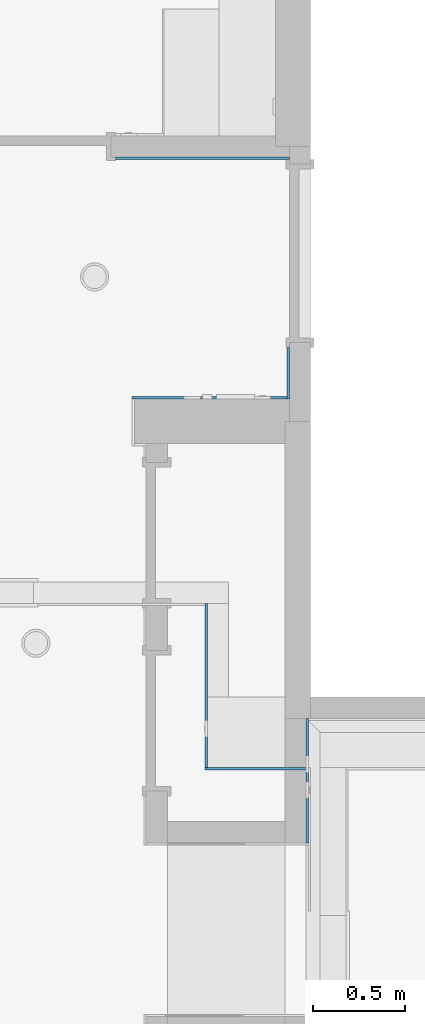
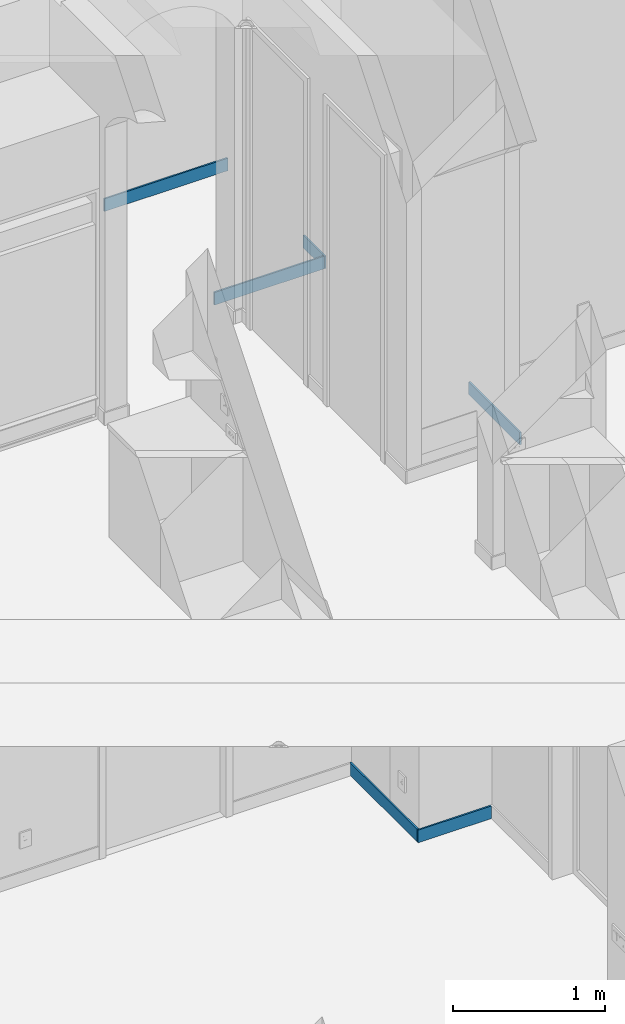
# One storey, part 25 of 60: 6 walls.
"""IFC2X3 building model written with IfcOpenShell, lengths in feet."""

from ifc_helpers import new_model, entity, si_unit, converted_unit, direction, frame, frame_2d, origin, place, context, subcontext, project, spatial, rectangle, extrude, material, layer, layer_set, layer_usage, type_object, element, save


model = new_model("IFC2X3")

# Units and contexts
model_context = context("Model", 3, precision=0.0001, world=origin(), true_north=direction((6.123031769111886e-17, 1.0)))
plan_context = context("Plan", 3, precision=0.0001, world=origin(), true_north=direction((6.123031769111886e-17, 1.0)))
body_context = subcontext(model_context, "Body", "Model", "MODEL_VIEW")
ifc_project = project(units=[converted_unit("LENGTHUNIT", "FOOT", entity("IfcLengthMeasure", 0.3048), si_unit("LENGTHUNIT", "METRE"), dimensions=[1, 0, 0, 0, 0, 0, 0]), converted_unit("AREAUNIT", "SQUARE FOOT", entity("IfcAreaMeasure", 0.09290304), si_unit("AREAUNIT", "SQUARE_METRE"), dimensions=[2, 0, 0, 0, 0, 0, 0]), converted_unit("PLANEANGLEUNIT", "DEGREE", entity("IfcPlaneAngleMeasure", 0.017453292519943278), si_unit("PLANEANGLEUNIT", "RADIAN"), dimensions=[0, 0, 0, 0, 0, 0, 0])], contexts=[model_context, plan_context])

# Site, building, storey
site_placement = place(None, origin())
site = spatial("IfcSite", under=ifc_project, at=site_placement, Name="Default", CompositionType="ELEMENT")
building_placement = place(site_placement, origin())
building = spatial("IfcBuilding", under=site, at=building_placement, CompositionType="ELEMENT")
storey_placement = place(building_placement, origin())
storey = spatial("IfcBuildingStorey", under=building, at=storey_placement, Name="First floor", CompositionType="ELEMENT", Elevation=0.0)

# Walls
ifc_material = material(Name="Default New Material")
ifc_layer = layer(ifc_material, 0.041666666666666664)
ifc_layer_set = layer_set([ifc_layer], Name="Basic Wall:Wall Border_T1")
ifc_layer_usage_1 = layer_usage(ifc_layer_set, "AXIS2", "POSITIVE", -0.020833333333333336)
wall_type = type_object("IfcWallType", Name="Basic Wall:Wall Border_T1", PredefinedType="STANDARD", material=ifc_layer_set)
wall_1_placement = place(storey_placement, frame((18.52083333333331, 29.79166666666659, 0.0), z_axis=(0.0, 0.0, 1.0), x_axis=(0.0, -1.0, 0.0)))
element("IfcWallStandardCase", 1, at=wall_1_placement, inside=storey, type_object=wall_type, material=ifc_layer_usage_1, Name="Basic Wall:Wall Border_T1", ObjectType="Basic Wall:Wall Border_T1", context=body_context, shape_type="SweptSolid", body=[
    extrude(rectangle(XDim=2.9166666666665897, YDim=0.0416666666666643, at=frame_2d((1.4583333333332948, 0.0), x_axis=(-1.0, 0.0))), origin(), (0.0, 0.0, 1.0), 0.3333333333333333),
])
ifc_layer_usage_2 = layer_usage(ifc_layer_set, "AXIS2", "POSITIVE", -0.020833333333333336)
wall_2_placement = place(storey_placement, frame((18.49999999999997, 26.854166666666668, 0.0)))
element("IfcWallStandardCase", 2, at=wall_2_placement, inside=storey, type_object=wall_type, material=ifc_layer_usage_2, Name="Basic Wall:Wall Border_T1", ObjectType="Basic Wall:Wall Border_T1", context=body_context, shape_type="SweptSolid", body=[
    extrude(rectangle(XDim=1.8333333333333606, YDim=0.0416666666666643, at=frame_2d((0.9166666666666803, 8.326672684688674e-17), x_axis=(-1.0, 0.0))), origin(), (0.0, 0.0, 1.0), 0.3333333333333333),
])
ifc_layer_usage_3 = layer_usage(ifc_layer_set, "AXIS2", "NEGATIVE", 0.020833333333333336)
wall_3_placement = place(storey_placement, frame((19.97916666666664, 34.332988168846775, 10.666666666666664), z_axis=(0.0, 0.0, 1.0), x_axis=(0.0, -1.0, 0.0)))
element("IfcWallStandardCase", 3, at=wall_3_placement, inside=storey, type_object=wall_type, material=ifc_layer_usage_3, Name="Basic Wall:Wall Border_T1", ObjectType="Basic Wall:Wall Border_T1", context=body_context, shape_type="SweptSolid", body=[
    extrude(rectangle(XDim=0.9166666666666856, YDim=0.0416666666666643, at=frame_2d((0.4583333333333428, 4.163336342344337e-17), x_axis=(-1.0, 0.0))), origin(), (0.0, 0.0, 1.0), 0.3333333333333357),
])
ifc_layer_usage_4 = layer_usage(ifc_layer_set, "AXIS2", "NEGATIVE", 0.020833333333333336)
wall_4_placement = place(storey_placement, frame((19.9583333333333, 33.437154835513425, 10.666666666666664), z_axis=(0.0, 0.0, 1.0), x_axis=(-1.0, 0.0, 0.0)))
element("IfcWallStandardCase", 4, at=wall_4_placement, inside=storey, type_object=wall_type, material=ifc_layer_usage_4, Name="Basic Wall:Wall Border_T1", ObjectType="Basic Wall:Wall Border_T1", context=body_context, shape_type="SweptSolid", body=[
    extrude(rectangle(XDim=2.7499999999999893, YDim=0.041666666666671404, at=frame_2d((1.3749999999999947, -1.4988010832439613e-15), x_axis=(-1.0, 0.0))), origin(), (0.0, 0.0, 1.0), 0.3333333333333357),
])
ifc_layer_usage_5 = layer_usage(ifc_layer_set, "AXIS2", "POSITIVE", -0.020833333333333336)
wall_5_placement = place(storey_placement, frame((16.916666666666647, 37.68715483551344, 10.666666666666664)))
element("IfcWallStandardCase", 5, at=wall_5_placement, inside=storey, type_object=wall_type, material=ifc_layer_usage_5, Name="Basic Wall:Wall Border_T1", ObjectType="Basic Wall:Wall Border_T1", context=body_context, shape_type="SweptSolid", body=[
    extrude(rectangle(XDim=3.0833333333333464, YDim=0.041666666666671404, at=frame_2d((1.5416666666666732, 0.0), x_axis=(-1.0, 0.0))), origin(), (0.0, 0.0, 1.0), 0.3333333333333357),
])
ifc_layer_usage_6 = layer_usage(ifc_layer_set, "AXIS2", "POSITIVE", -0.020833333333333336)
wall_6_placement = place(storey_placement, frame((20.31249999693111, 25.541321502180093, 10.666666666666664), z_axis=(0.0, 0.0, 1.0), x_axis=(0.0, 1.0, 0.0)))
element("IfcWallStandardCase", 6, at=wall_6_placement, inside=storey, type_object=wall_type, material=ifc_layer_usage_6, Name="Basic Wall:Wall Border_T1", ObjectType="Basic Wall:Wall Border_T1", context=body_context, shape_type="SweptSolid", body=[
    extrude(rectangle(XDim=2.208678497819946, YDim=0.0416666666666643, at=frame_2d((1.104339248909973, 0.0), x_axis=(-1.0, 0.0))), origin(), (0.0, 0.0, 1.0), 0.3333333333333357),
])

save(model, "model.ifc")
